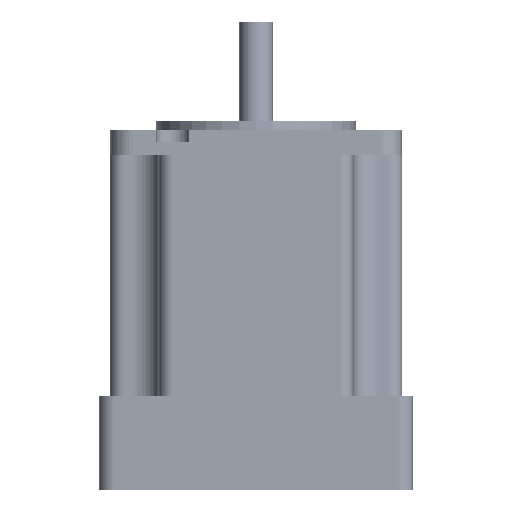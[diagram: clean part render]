
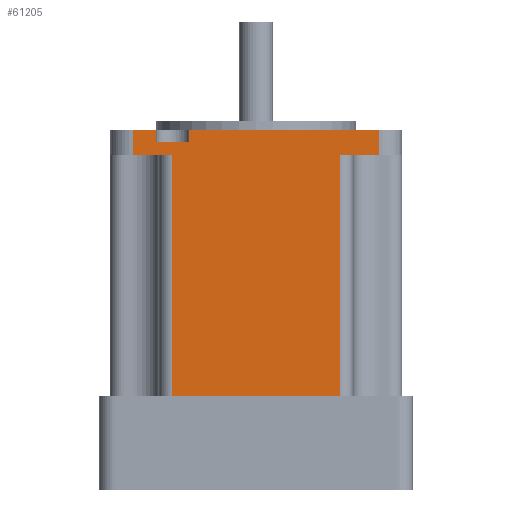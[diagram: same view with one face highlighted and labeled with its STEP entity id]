
A CAD part, left-side view. The second image highlights one B-rep face of the part: STEP entity #61205.
In plain terms, the highlighted planar face has unit normal (-1, 0, 0).
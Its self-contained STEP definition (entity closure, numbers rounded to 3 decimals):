
#5815 = DIRECTION ( 'NONE',  ( 0., 0., 1. ) ) ;
#7123 = EDGE_CURVE ( 'NONE', #282945, #114643, #51239, .T. ) ;
#21978 = LINE ( 'NONE', #341021, #122214 ) ;
#24879 = DIRECTION ( 'NONE',  ( 0., -1., 0. ) ) ;
#35633 = LINE ( 'NONE', #302749, #219666 ) ;
#37836 = DIRECTION ( 'NONE',  ( 0., 0., -1. ) ) ;
#41199 = CARTESIAN_POINT ( 'NONE',  ( -27.9, 51., 16.044 ) ) ;
#46490 = CARTESIAN_POINT ( 'NONE',  ( -27.9, 4.8, -16.044 ) ) ;
#51239 = LINE ( 'NONE', #317263, #398760 ) ;
#60365 = LINE ( 'NONE', #428280, #376151 ) ;
#61205 = ADVANCED_FACE ( 'NONE', ( #74061 ), #412869, .F. ) ;
#61975 = EDGE_CURVE ( 'NONE', #393415, #245383, #60365, .T. ) ;
#68453 = EDGE_CURVE ( 'NONE', #90124, #114643, #199215, .T. ) ;
#68752 = VERTEX_POINT ( 'NONE', #179165 ) ;
#71465 = CARTESIAN_POINT ( 'NONE',  ( -27.9, 0., -23.57 ) ) ;
#73319 = LINE ( 'NONE', #229878, #283924 ) ;
#74061 = FACE_OUTER_BOUND ( 'NONE', #410453, .T. ) ;
#74742 = DIRECTION ( 'NONE',  ( 0., -1., 0. ) ) ;
#85128 = VERTEX_POINT ( 'NONE', #282888 ) ;
#90124 = VERTEX_POINT ( 'NONE', #237393 ) ;
#101050 = CARTESIAN_POINT ( 'NONE',  ( -27.9, 4.8, -23.57 ) ) ;
#114643 = VERTEX_POINT ( 'NONE', #258255 ) ;
#122214 = VECTOR ( 'NONE', #74742, 1000. ) ;
#128108 = ORIENTED_EDGE ( 'NONE', *, *, #61975, .T. ) ;
#130888 = DIRECTION ( 'NONE',  ( 0., 0., 1. ) ) ;
#133585 = CARTESIAN_POINT ( 'NONE',  ( -27.9, 4.8, -23.57 ) ) ;
#134242 = EDGE_CURVE ( 'NONE', #68752, #433322, #73319, .T. ) ;
#140841 = VECTOR ( 'NONE', #325622, 1000. ) ;
#158723 = ORIENTED_EDGE ( 'NONE', *, *, #250195, .T. ) ;
#160054 = CARTESIAN_POINT ( 'NONE',  ( -27.9, 2.3, 19.05 ) ) ;
#166254 = LINE ( 'NONE', #420153, #435032 ) ;
#166709 = ORIENTED_EDGE ( 'NONE', *, *, #347572, .T. ) ;
#179165 = CARTESIAN_POINT ( 'NONE',  ( -27.9, 51., 16.044 ) ) ;
#179270 = ORIENTED_EDGE ( 'NONE', *, *, #320696, .F. ) ;
#183236 = EDGE_CURVE ( 'NONE', #267053, #90124, #353924, .T. ) ;
#186941 = AXIS2_PLACEMENT_3D ( 'NONE', #247837, #275844, #246394 ) ;
#199215 = LINE ( 'NONE', #228018, #299167 ) ;
#199685 = ORIENTED_EDGE ( 'NONE', *, *, #250762, .F. ) ;
#199697 = CARTESIAN_POINT ( 'NONE',  ( -27.9, 2.3, 19.05 ) ) ;
#206951 = LINE ( 'NONE', #41199, #375359 ) ;
#208885 = ORIENTED_EDGE ( 'NONE', *, *, #7123, .F. ) ;
#212757 = LINE ( 'NONE', #101050, #391717 ) ;
#219666 = VECTOR ( 'NONE', #37836, 1000. ) ;
#227287 = DIRECTION ( 'NONE',  ( 0., 0., 1. ) ) ;
#228018 = CARTESIAN_POINT ( 'NONE',  ( -27.9, 0., -23.57 ) ) ;
#228366 = VERTEX_POINT ( 'NONE', #346062 ) ;
#229878 = CARTESIAN_POINT ( 'NONE',  ( -27.9, 41., 16.044 ) ) ;
#237393 = CARTESIAN_POINT ( 'NONE',  ( -27.9, 0., 19.05 ) ) ;
#238293 = EDGE_CURVE ( 'NONE', #85128, #228366, #166254, .T. ) ;
#240817 = LINE ( 'NONE', #429044, #340871 ) ;
#245383 = VERTEX_POINT ( 'NONE', #46490 ) ;
#246394 = DIRECTION ( 'NONE',  ( 0., 0., -1. ) ) ;
#247837 = CARTESIAN_POINT ( 'NONE',  ( -27.9, 4.8, -23.57 ) ) ;
#250195 = EDGE_CURVE ( 'NONE', #299530, #228366, #240817, .T. ) ;
#250762 = EDGE_CURVE ( 'NONE', #433322, #282945, #319916, .T. ) ;
#258231 = CARTESIAN_POINT ( 'NONE',  ( -27.9, 4.8, 16.044 ) ) ;
#258255 = CARTESIAN_POINT ( 'NONE',  ( -27.9, 0., 23.57 ) ) ;
#264406 = VECTOR ( 'NONE', #405547, 1000. ) ;
#267053 = VERTEX_POINT ( 'NONE', #160054 ) ;
#267284 = DIRECTION ( 'NONE',  ( 0., 0., 1. ) ) ;
#275844 = DIRECTION ( 'NONE',  ( 1., 0., 0. ) ) ;
#282888 = CARTESIAN_POINT ( 'NONE',  ( -27.9, 2.3, 12.75 ) ) ;
#282945 = VERTEX_POINT ( 'NONE', #397814 ) ;
#283924 = VECTOR ( 'NONE', #399095, 1000. ) ;
#287506 = DIRECTION ( 'NONE',  ( 0., -1., 0. ) ) ;
#299167 = VECTOR ( 'NONE', #130888, 1000. ) ;
#299530 = VERTEX_POINT ( 'NONE', #71465 ) ;
#302749 = CARTESIAN_POINT ( 'NONE',  ( -27.9, 2.3, 19.05 ) ) ;
#311523 = CARTESIAN_POINT ( 'NONE',  ( -27.9, 51., -16.044 ) ) ;
#317263 = CARTESIAN_POINT ( 'NONE',  ( -27.9, 4.8, 23.57 ) ) ;
#319916 = LINE ( 'NONE', #324182, #140841 ) ;
#320601 = ORIENTED_EDGE ( 'NONE', *, *, #183236, .T. ) ;
#320696 = EDGE_CURVE ( 'NONE', #393415, #68752, #206951, .T. ) ;
#324182 = CARTESIAN_POINT ( 'NONE',  ( -27.9, 4.8, -23.57 ) ) ;
#325622 = DIRECTION ( 'NONE',  ( 0., 0., 1. ) ) ;
#333238 = ORIENTED_EDGE ( 'NONE', *, *, #238293, .F. ) ;
#340871 = VECTOR ( 'NONE', #227287, 1000. ) ;
#341021 = CARTESIAN_POINT ( 'NONE',  ( -27.9, 4.8, -23.57 ) ) ;
#343885 = ORIENTED_EDGE ( 'NONE', *, *, #371704, .F. ) ;
#346062 = CARTESIAN_POINT ( 'NONE',  ( -27.9, 0., 12.75 ) ) ;
#347572 = EDGE_CURVE ( 'NONE', #386210, #299530, #21978, .T. ) ;
#353924 = LINE ( 'NONE', #199697, #264406 ) ;
#353989 = DIRECTION ( 'NONE',  ( 0., -1., 0. ) ) ;
#371704 = EDGE_CURVE ( 'NONE', #386210, #245383, #212757, .T. ) ;
#375359 = VECTOR ( 'NONE', #5815, 1000. ) ;
#376151 = VECTOR ( 'NONE', #24879, 1000. ) ;
#380630 = ORIENTED_EDGE ( 'NONE', *, *, #68453, .T. ) ;
#386210 = VERTEX_POINT ( 'NONE', #133585 ) ;
#389195 = ORIENTED_EDGE ( 'NONE', *, *, #134242, .F. ) ;
#391717 = VECTOR ( 'NONE', #267284, 1000. ) ;
#393415 = VERTEX_POINT ( 'NONE', #311523 ) ;
#397814 = CARTESIAN_POINT ( 'NONE',  ( -27.9, 4.8, 23.57 ) ) ;
#398760 = VECTOR ( 'NONE', #353989, 1000. ) ;
#399095 = DIRECTION ( 'NONE',  ( 0., -1., 0. ) ) ;
#399568 = EDGE_CURVE ( 'NONE', #267053, #85128, #35633, .T. ) ;
#405547 = DIRECTION ( 'NONE',  ( 0., -1., 0. ) ) ;
#410453 = EDGE_LOOP ( 'NONE', ( #428828, #320601, #380630, #208885, #199685, #389195, #179270, #128108, #343885, #166709, #158723, #333238 ) ) ;
#412869 = PLANE ( 'NONE',  #186941 ) ;
#420153 = CARTESIAN_POINT ( 'NONE',  ( -27.9, 2.3, 12.75 ) ) ;
#428280 = CARTESIAN_POINT ( 'NONE',  ( -27.9, 41., -16.044 ) ) ;
#428828 = ORIENTED_EDGE ( 'NONE', *, *, #399568, .F. ) ;
#429044 = CARTESIAN_POINT ( 'NONE',  ( -27.9, 0., -23.57 ) ) ;
#433322 = VERTEX_POINT ( 'NONE', #258231 ) ;
#435032 = VECTOR ( 'NONE', #287506, 1000. ) ;
